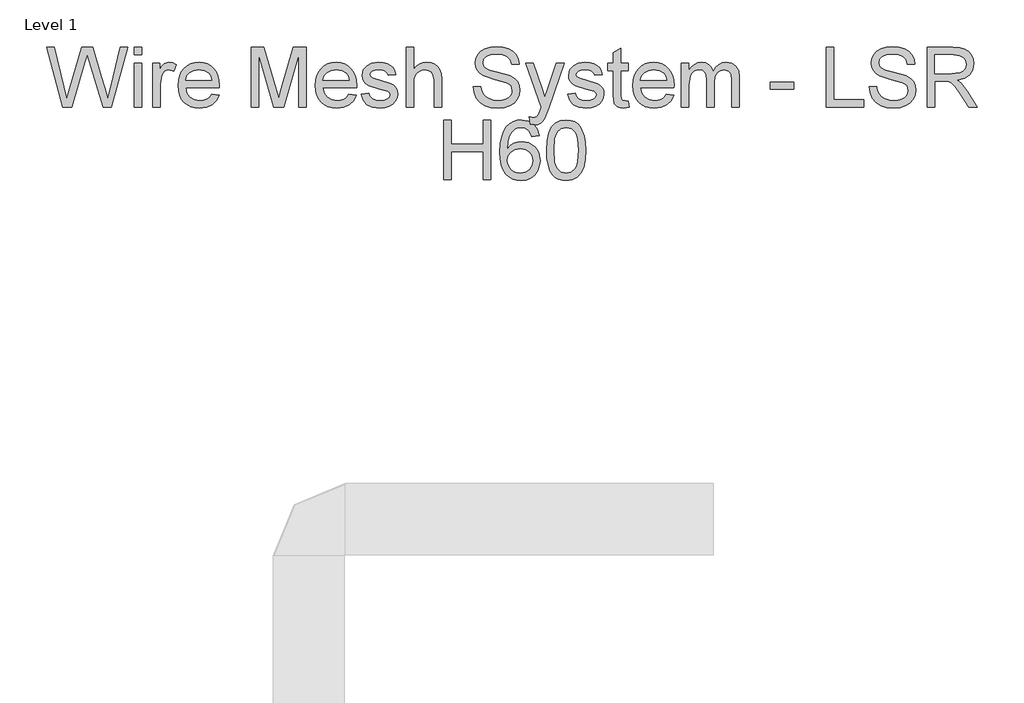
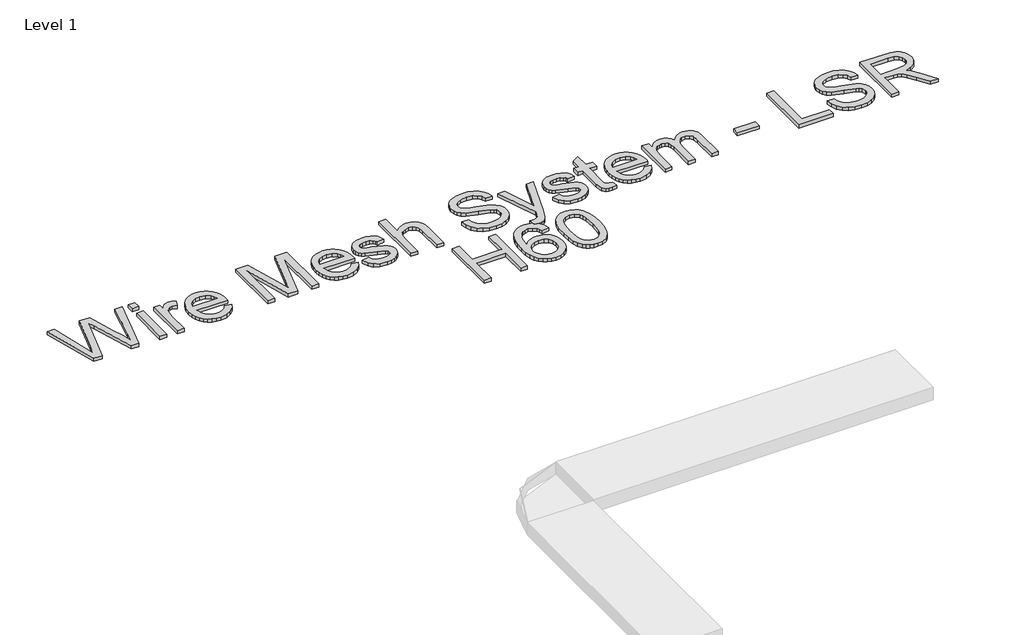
# One storey, part 22 of 32: 1 proxy.
"""IFC4 building model written with IfcOpenShell, lengths in millimetres."""

from ifc_helpers import new_model, si_unit, origin, origin_with_axes, place, context, project, spatial, polyline, outline, extrude, element, save

model = new_model("IFC4")

# Units and contexts
model_context = context("Model", 3, world=origin())
ifc_project = project(units=[si_unit("LENGTHUNIT", "METRE", prefix="MILLI")], contexts=[model_context])

# Site, building, storey
site = spatial("IfcSite", under=ifc_project)
building = spatial("IfcBuilding", under=site)
storey = spatial("IfcBuildingStorey", under=building, Name="Level 1", Elevation=0.0)

# Proxy
placement = place(None, origin())
element("IfcBuildingElementProxy", 1, Name="250mm Arial 3", ObjectType="250mm Arial 3", at=placement, inside=storey, context=model_context, shape_type="SweptSolid", body=[
    extrude(outline(polyline([(11235.8363473, 37103.1379564), (11167.3489825, 37354.2787318), (11199.7225981, 37354.2787318), (11239.4538536, 37189.2223433), (11251.7165867, 37138.2706869), (11264.8377112, 37183.3362313), (11314.6244079, 37354.2787318), (11361.2841076, 37354.2787318), (11397.4591705, 37230.3638131), (11412.9561995, 37184.3785637), (11424.3758698, 37138.2706869), (11436.270721, 37187.7508153), (11476.3698585, 37354.2787318), (11508.743474, 37354.2787318), (11440.1947956, 37103.1379564), (11406.6562204, 37103.1379564), (11346.4462005, 37296.8891405), (11338.0462283, 37323.9284672), (11328.6039237, 37291.3709106), (11273.7281928, 37103.1379564), (11235.8363473, 37103.1379564)])), origin_with_axes(), (0.0, 0.0, 1.0), 15.0),
    extrude(outline(polyline([(11536.2119963, 37322.8861348), (11536.2119963, 37354.2787318), (11567.6045933, 37354.2787318), (11567.6045933, 37322.8861348), (11536.2119963, 37322.8861348)])), origin_with_axes(), (0.0, 0.0, 1.0), 15.0),
    extrude(outline(polyline([(11536.2119963, 37103.1379564), (11536.2119963, 37287.5694633), (11567.6045933, 37287.5694633), (11567.6045933, 37103.1379564), (11536.2119963, 37103.1379564)])), origin_with_axes(), (0.0, 0.0, 1.0), 15.0),
    extrude(outline(polyline([(11614.6934886, 37103.1379564), (11614.6934886, 37287.5694633), (11642.1620109, 37287.5694633), (11642.1620109, 37260.284882), (11652.3094226, 37276.1038078), (11661.6597567, 37285.423485), (11681.2801298, 37291.4935379), (11696.9151146, 37289.0716481), (11712.795354, 37281.8059787), (11702.3107172, 37253.6630061), (11680.2377974, 37260.100941), (11670.8644708, 37258.5527709), (11662.4874912, 37253.9082608), (11651.1751198, 37236.7404343), (11646.0860856, 37200.0748621), (11646.0860856, 37103.1379564), (11614.6934886, 37103.1379564)])), origin_with_axes(), (0.0, 0.0, 1.0), 15.0),
    extrude(outline(polyline([(11861.5423074, 37158.075001), (11892.3217677, 37154.1509264), (11881.2316584, 37130.9590323), (11863.5350015, 37113.6225933), (11839.6303361, 37102.8160597), (11809.9162007, 37099.2138818), (11790.4376155, 37100.7678), (11773.082016, 37105.4295547), (11757.8494021, 37113.1991458), (11744.7397739, 37124.0765733), (11734.1976555, 37137.759101), (11726.6675709, 37153.9439928), (11722.1495202, 37172.6312485), (11720.6435032, 37193.8208682), (11722.1648486, 37215.7290074), (11726.7288846, 37235.0389801), (11734.3356113, 37251.7507861), (11744.9850286, 37265.8644256), (11758.0601678, 37277.0771622), (11772.9440602, 37285.0862598), (11789.6367058, 37289.8917184), (11808.1381044, 37291.4935379), (11826.0436109, 37289.8955505), (11842.2361669, 37285.1015883), (11856.7157723, 37277.1116512), (11869.4824271, 37265.9257393), (11879.9038343, 37251.8427566), (11887.3476965, 37235.1616074), (11891.8140139, 37215.8822916), (11893.3027863, 37194.0048092), (11893.1188453, 37185.5435233), (11752.0361002, 37185.5435233), (11757.4700238, 37162.0450609), (11770.0929748, 37144.7699355), (11788.3107977, 37134.1473429), (11810.5293374, 37130.6064787), (11827.2373114, 37132.2466193), (11841.3087977, 37137.1670409), (11852.7437963, 37145.6743121), (11861.5423074, 37158.075001)]), holes=[polyline([(11752.0361002, 37216.9361202), (11861.9101894, 37216.9361202), (11857.664218, 37233.5214669), (11849.3408879, 37245.3856612), (11831.0387586, 37256.4221211), (11808.0154771, 37260.100941), (11786.8545982, 37257.1655493), (11769.3572108, 37248.359374), (11757.1941123, 37234.632777), (11752.0361002, 37216.9361202)])]), origin_with_axes(), (0.0, 0.0, 1.0), 15.0),
    extrude(outline(polyline([(12026.7213232, 37103.1379564), (12026.7213232, 37354.2787318), (12080.7386629, 37354.2787318), (12132.1195149, 37177.2661784), (12142.4815244, 37140.2940379), (12153.7019252, 37180.3318617), (12204.2243859, 37354.2787318), (12258.2417255, 37354.2787318), (12258.2417255, 37103.1379564), (12226.8491286, 37103.1379564), (12226.8491286, 37322.8861348), (12163.7573664, 37103.1379564), (12121.2056823, 37103.1379564), (12058.1139202, 37322.8861348), (12058.1139202, 37103.1379564), (12026.7213232, 37103.1379564)])), origin_with_axes(), (0.0, 0.0, 1.0), 15.0),
    extrude(outline(polyline([(12438.3812758, 37158.075001), (12469.1607361, 37154.1509264), (12458.0706268, 37130.9590323), (12440.37397, 37113.6225933), (12416.4693045, 37102.8160597), (12386.7551692, 37099.2138818), (12367.276584, 37100.7678), (12349.9209844, 37105.4295547), (12334.6883706, 37113.1991458), (12321.5787424, 37124.0765733), (12311.0366239, 37137.759101), (12303.5065394, 37153.9439928), (12298.9884886, 37172.6312485), (12297.4824717, 37193.8208682), (12299.003817, 37215.7290074), (12303.567853, 37235.0389801), (12311.1745797, 37251.7507861), (12321.823997, 37265.8644256), (12334.8991363, 37277.0771622), (12349.7830287, 37285.0862598), (12366.4756742, 37289.8917184), (12384.9770729, 37291.4935379), (12402.8825794, 37289.8955505), (12419.0751353, 37285.1015883), (12433.5547407, 37277.1116512), (12446.3213956, 37265.9257393), (12456.7428027, 37251.8427566), (12464.186665, 37235.1616074), (12468.6529823, 37215.8822916), (12470.1417548, 37194.0048092), (12469.9578138, 37185.5435233), (12328.8750686, 37185.5435233), (12334.3089922, 37162.0450609), (12346.9319432, 37144.7699355), (12365.1497662, 37134.1473429), (12387.3683058, 37130.6064787), (12404.0762798, 37132.2466193), (12418.1477661, 37137.1670409), (12429.5827648, 37145.6743121), (12438.3812758, 37158.075001)]), holes=[polyline([(12328.8750686, 37216.9361202), (12438.7491578, 37216.9361202), (12434.5031865, 37233.5214669), (12426.1798563, 37245.3856612), (12407.8777271, 37256.4221211), (12384.8544455, 37260.100941), (12363.6935666, 37257.1655493), (12346.1961792, 37248.359374), (12334.0330807, 37234.632777), (12328.8750686, 37216.9361202)])]), origin_with_axes(), (0.0, 0.0, 1.0), 15.0),
    extrude(outline(polyline([(12489.7621278, 37158.075001), (12521.1547248, 37161.9990756), (12526.1058033, 37148.5713828), (12535.6860636, 37138.6998826), (12549.9568193, 37132.6298297), (12568.9793841, 37130.6064787), (12587.7720227, 37132.4612171), (12600.9851177, 37138.0254323), (12608.8026101, 37146.0881793), (12611.4084409, 37155.4385134), (12608.7872817, 37163.4399468), (12600.923804, 37169.5406565), (12568.6115021, 37178.4924517), (12521.3386657, 37193.851525), (12509.3748367, 37201.5693827), (12500.7066172, 37211.7857723), (12495.4413061, 37223.8492361), (12493.6862024, 37237.1083163), (12499.3270597, 37260.4994798), (12514.7167898, 37278.3724134), (12534.6743881, 37287.6614338), (12561.6830579, 37291.4935379), (12582.115837, 37289.9530321), (12599.8814717, 37285.3315145), (12614.1675559, 37278.0811735), (12624.1616834, 37268.6541974), (12630.7835593, 37256.3531432), (12634.9528886, 37240.4805679), (12603.5602917, 37236.5564933), (12599.597896, 37246.4356577), (12591.757411, 37253.8776039), (12579.9621945, 37258.5451067), (12564.1356045, 37260.100941), (12546.1093868, 37258.6140846), (12534.0919082, 37254.1535154), (12527.3320766, 37247.7155805), (12525.0787994, 37240.2966269), (12528.818933, 37231.1608907), (12540.5298432, 37224.2324465), (12567.5691698, 37217.5492569), (12613.6463897, 37202.7726634), (12625.8171524, 37195.7062634), (12635.0448591, 37186.0340326), (12640.8619931, 37173.7253142), (12642.8010378, 37158.7494513), (12640.524768, 37143.2677507), (12633.6959584, 37128.7057551), (12622.5751923, 37116.2054314), (12607.4230526, 37106.9087468), (12589.1209234, 37101.137598), (12568.5501885, 37099.2138818), (12536.8970085, 37102.9233586), (12513.7970848, 37114.0517889), (12498.3766979, 37132.4765455), (12489.7621278, 37158.075001)])), origin_with_axes(), (0.0, 0.0, 1.0), 15.0),
    extrude(outline(polyline([(12678.1177094, 37103.1379564), (12678.1177094, 37354.2787318), (12709.5103063, 37354.2787318), (12709.5103063, 37261.940351), (12721.0411076, 37274.8698703), (12733.9897874, 37284.1052412), (12748.3563457, 37289.6464637), (12764.1407826, 37291.4935379), (12783.1020337, 37289.4778512), (12799.3961404, 37283.4307909), (12812.226025, 37273.8275379), (12820.7946098, 37261.1432733), (12825.623061, 37243.7148638), (12827.2325447, 37219.8791762), (12827.2325447, 37103.1379564), (12795.8399478, 37103.1379564), (12795.8399478, 37216.6295519), (12793.3414159, 37236.2805818), (12785.8458203, 37249.7389315), (12773.7670281, 37257.5104386), (12757.5189067, 37260.100941), (12744.2521622, 37258.3535015), (12731.7978238, 37253.1111831), (12721.4817995, 37244.8798235), (12714.6299974, 37234.1652603), (12710.7902291, 37219.9251614), (12709.5103063, 37201.1171944), (12709.5103063, 37103.1379564), (12678.1177094, 37103.1379564)])), origin_with_axes(), (0.0, 0.0, 1.0), 15.0),
    extrude(outline(polyline([(12960.6510817, 37189.4675979), (12992.0436786, 37189.4675979), (12995.6458564, 37172.0468526), (13002.1604334, 37158.0443442), (13012.3231736, 37146.9312422), (13026.8698408, 37138.1787164), (13044.6508039, 37132.4995381), (13064.5164316, 37130.6064787), (13082.0061548, 37132.0396856), (13097.3192429, 37136.3393065), (13109.727596, 37143.1451234), (13118.5031144, 37152.0969186), (13123.7224402, 37162.3746218), (13125.4622155, 37173.1581628), (13120.2505539, 37192.7478791), (13112.3104342, 37200.4963936), (13098.9133982, 37207.0033064), (13053.2040603, 37218.990128), (13003.9998434, 37234.4718287), (12988.3725228, 37245.0331076), (12977.2977419, 37257.8323354), (12970.6988587, 37272.5936004), (12968.4992309, 37289.0409913), (12971.2200248, 37307.4274268), (12979.3824066, 37324.5722607), (12992.7717784, 37339.1035995), (13011.1735423, 37349.64955), (13033.2617905, 37356.0644923), (13057.7106147, 37358.2028064), (13084.1981184, 37355.9648576), (13107.3746841, 37349.2510112), (13126.4125773, 37338.1992229), (13140.4840636, 37322.9474485), (13149.3898736, 37304.4460498), (13152.9307378, 37283.6453887), (13121.5381409, 37283.6453887), (13115.7746563, 37302.3767136), (13103.7571778, 37315.8963769), (13084.9798676, 37324.0817513), (13058.936888, 37326.8102095), (13032.2807718, 37324.1124082), (13013.993971, 37316.0190043), (13003.4173636, 37304.1088247), (12999.8918278, 37289.9606963), (13002.3903597, 37277.8972325), (13009.8859553, 37268.1943449), (13027.6056048, 37259.5184612), (13061.14418, 37250.6586365), (13116.6943613, 37234.9010243), (13134.5902875, 37223.5120109), (13147.0752827, 37209.455853), (13154.40993, 37192.8858348), (13156.8548124, 37173.9552405), (13154.042048, 37154.6031147), (13145.6037547, 37136.4006201), (13131.884822, 37120.7349785), (13113.2301392, 37108.9934115), (13090.7970017, 37101.6587642), (13065.7427049, 37099.2138818), (13034.9862373, 37101.8503694), (13009.6713575, 37109.7598323), (12989.5068257, 37122.9729273), (12974.2014018, 37141.5203112), (12964.3758869, 37164.1143971), (12960.6510817, 37189.4675979)])), origin_with_axes(), (0.0, 0.0, 1.0), 15.0),
    extrude(outline(polyline([(13200.0196332, 37032.5046133), (13196.0955586, 37062.7322506), (13212.0371117, 37059.9731356), (13226.9363325, 37063.4373577), (13236.0720687, 37073.0942601), (13244.6559819, 37096.2095122), (13247.1085286, 37103.8124067), (13180.3992601, 37287.5694633), (13213.5086397, 37287.5694633), (13248.8866249, 37185.1756413), (13261.2106717, 37144.2181125), (13273.5347186, 37180.3931754), (13309.8937224, 37287.5694633), (13342.7578473, 37287.5694633), (13278.5624392, 37098.7233725), (13261.885122, 37057.7658437), (13253.3471941, 37044.6907044), (13243.6749633, 37035.6316103), (13232.439234, 37030.3433066), (13219.2108106, 37028.5805387), (13200.0196332, 37032.5046133)])), origin_with_axes(), (0.0, 0.0, 1.0), 15.0),
    extrude(outline(polyline([(13356.9826178, 37158.075001), (13388.3752147, 37161.9990756), (13393.3262932, 37148.5713828), (13402.9065535, 37138.6998826), (13417.1773093, 37132.6298297), (13436.1998741, 37130.6064787), (13454.9925127, 37132.4612171), (13468.2056077, 37138.0254323), (13476.0231001, 37146.0881793), (13478.6289309, 37155.4385134), (13476.0077717, 37163.4399468), (13468.144294, 37169.5406565), (13435.8319921, 37178.4924517), (13388.5591557, 37193.851525), (13376.5953267, 37201.5693827), (13367.9271072, 37211.7857723), (13362.6617961, 37223.8492361), (13360.9066924, 37237.1083163), (13366.5475497, 37260.4994798), (13381.9372798, 37278.3724134), (13401.894878, 37287.6614338), (13428.9035479, 37291.4935379), (13449.336327, 37289.9530321), (13467.1019617, 37285.3315145), (13481.3880458, 37278.0811735), (13491.3821734, 37268.6541974), (13498.0040493, 37256.3531432), (13502.1733786, 37240.4805679), (13470.7807816, 37236.5564933), (13466.818386, 37246.4356577), (13458.977901, 37253.8776039), (13447.1826845, 37258.5451067), (13431.3560945, 37260.100941), (13413.3298767, 37258.6140846), (13401.3123982, 37254.1535154), (13394.5525666, 37247.7155805), (13392.2992893, 37240.2966269), (13396.0394229, 37231.1608907), (13407.7503331, 37224.2324465), (13434.7896598, 37217.5492569), (13480.8668797, 37202.7726634), (13493.0376423, 37195.7062634), (13502.2653491, 37186.0340326), (13508.0824831, 37173.7253142), (13510.0215278, 37158.7494513), (13507.7452579, 37143.2677507), (13500.9164484, 37128.7057551), (13489.7956823, 37116.2054314), (13474.6435426, 37106.9087468), (13456.3414133, 37101.137598), (13435.7706784, 37099.2138818), (13404.1174984, 37102.9233586), (13381.0175748, 37114.0517889), (13365.5971878, 37132.4765455), (13356.9826178, 37158.075001)])), origin_with_axes(), (0.0, 0.0, 1.0), 15.0),
    extrude(outline(polyline([(13612.0474678, 37129.3188917), (13615.9715424, 37102.2182514), (13592.4884084, 37099.2138818), (13577.420575, 37100.5167972), (13566.1848457, 37104.4255434), (13553.0637212, 37118.0984909), (13549.2622739, 37153.7217307), (13549.2622739, 37256.1768664), (13525.7178262, 37256.1768664), (13525.7178262, 37287.5694633), (13549.2622739, 37287.5694633), (13549.2622739, 37332.3897531), (13580.6548709, 37350.8451665), (13580.6548709, 37287.5694633), (13612.0474678, 37287.5694633), (13612.0474678, 37256.1768664), (13580.6548709, 37256.1768664), (13580.6548709, 37154.6414357), (13582.3103398, 37138.4546279), (13587.6752856, 37132.7218002), (13598.3745203, 37130.6064787), (13612.0474678, 37129.3188917)])), origin_with_axes(), (0.0, 0.0, 1.0), 15.0),
    extrude(outline(polyline([(13772.566645, 37158.075001), (13803.3461053, 37154.1509264), (13792.255996, 37130.9590323), (13774.5593392, 37113.6225933), (13750.6546737, 37102.8160597), (13720.9405384, 37099.2138818), (13701.4619531, 37100.7678), (13684.1063536, 37105.4295547), (13668.8737397, 37113.1991458), (13655.7641115, 37124.0765733), (13645.2219931, 37137.759101), (13637.6919085, 37153.9439928), (13633.1738578, 37172.6312485), (13631.6678409, 37193.8208682), (13633.1891862, 37215.7290074), (13637.7532222, 37235.0389801), (13645.3599489, 37251.7507861), (13656.0093662, 37265.8644256), (13669.0845055, 37277.0771622), (13683.9683978, 37285.0862598), (13700.6610434, 37289.8917184), (13719.162442, 37291.4935379), (13737.0679485, 37289.8955505), (13753.2605045, 37285.1015883), (13767.7401099, 37277.1116512), (13780.5067647, 37265.9257393), (13790.9281719, 37251.8427566), (13798.3720341, 37235.1616074), (13802.8383515, 37215.8822916), (13804.3271239, 37194.0048092), (13804.1431829, 37185.5435233), (13663.0604378, 37185.5435233), (13668.4943614, 37162.0450609), (13681.1173124, 37144.7699355), (13699.3351353, 37134.1473429), (13721.553675, 37130.6064787), (13738.261649, 37132.2466193), (13752.3331353, 37137.1670409), (13763.768134, 37145.6743121), (13772.566645, 37158.075001)]), holes=[polyline([(13663.0604378, 37216.9361202), (13772.934527, 37216.9361202), (13768.6885556, 37233.5214669), (13760.3652255, 37245.3856612), (13742.0630962, 37256.4221211), (13719.0398147, 37260.100941), (13697.8789358, 37257.1655493), (13680.3815484, 37248.359374), (13668.2184499, 37234.632777), (13663.0604378, 37216.9361202)])]), origin_with_axes(), (0.0, 0.0, 1.0), 15.0),
    extrude(outline(polyline([(13835.7197209, 37103.1379564), (13835.7197209, 37287.5694633), (13867.1123178, 37287.5694633), (13867.1123178, 37257.2191987), (13876.5546223, 37271.1603935), (13888.6947282, 37282.0818902), (13903.1187681, 37289.140626), (13919.4128748, 37291.4935379), (13936.8719411, 37289.0946407), (13950.8667853, 37281.8979492), (13961.3207654, 37270.3786442), (13968.1572391, 37255.0119067), (13979.599902, 37270.9726204), (13992.6520486, 37282.3731301), (14007.313679, 37289.213436), (14023.5847931, 37291.4935379), (14047.1828902, 37287.6997549), (14064.6342923, 37276.3184056), (14075.4178333, 37257.0429219), (14079.012347, 37229.5667354), (14079.012347, 37103.1379564), (14047.6197501, 37103.1379564), (14047.6197501, 37216.0777289), (14044.7073509, 37242.2893211), (14034.1614004, 37255.1958477), (14016.2271532, 37260.100941), (13999.2202751, 37256.9586156), (13985.3557224, 37247.5316395), (13976.1356799, 37231.1762191), (13973.0623324, 37207.248561), (13973.0623324, 37103.1379564), (13941.6697355, 37103.1379564), (13941.6697355, 37219.5726079), (13939.8533181, 37237.3229141), (13934.4040661, 37249.9841861), (13924.8161416, 37257.5717523), (13910.5837069, 37260.100941), (13898.4895863, 37258.4148152), (13887.3458275, 37253.3564378), (13878.1487776, 37245.048436), (13871.8947837, 37233.6134374), (13867.1123178, 37196.1507875), (13867.1123178, 37103.1379564), (13835.7197209, 37103.1379564)])), origin_with_axes(), (0.0, 0.0, 1.0), 15.0),
    extrude(outline(polyline([(14208.5068093, 37177.6953741), (14208.5068093, 37209.087971), (14306.6086747, 37209.087971), (14306.6086747, 37177.6953741), (14208.5068093, 37177.6953741)])), origin_with_axes(), (0.0, 0.0, 1.0), 15.0),
    extrude(outline(polyline([(14443.9512862, 37103.1379564), (14443.9512862, 37354.2787318), (14475.3438831, 37354.2787318), (14475.3438831, 37134.5305533), (14600.9142708, 37134.5305533), (14600.9142708, 37103.1379564), (14443.9512862, 37103.1379564)])), origin_with_axes(), (0.0, 0.0, 1.0), 15.0),
    extrude(outline(polyline([(14624.4587185, 37189.4675979), (14655.8513154, 37189.4675979), (14659.4534933, 37172.0468526), (14665.9680703, 37158.0443442), (14676.1308104, 37146.9312422), (14690.6774776, 37138.1787164), (14708.4584407, 37132.4995381), (14728.3240685, 37130.6064787), (14745.8137917, 37132.0396856), (14761.1268797, 37136.3393065), (14773.5352328, 37143.1451234), (14782.3107513, 37152.0969186), (14787.5300771, 37162.3746218), (14789.2698523, 37173.1581628), (14784.0581908, 37192.7478791), (14776.118071, 37200.4963936), (14762.721035, 37207.0033064), (14717.0116971, 37218.990128), (14667.8074803, 37234.4718287), (14652.1801597, 37245.0331076), (14641.1053788, 37257.8323354), (14634.5064955, 37272.5936004), (14632.3068677, 37289.0409913), (14635.0276617, 37307.4274268), (14643.1900434, 37324.5722607), (14656.5794152, 37339.1035995), (14674.9811792, 37349.64955), (14697.0694273, 37356.0644923), (14721.5182516, 37358.2028064), (14748.0057552, 37355.9648576), (14771.1823209, 37349.2510112), (14790.2202142, 37338.1992229), (14804.2917005, 37322.9474485), (14813.1975105, 37304.4460498), (14816.7383747, 37283.6453887), (14785.3457777, 37283.6453887), (14779.5822931, 37302.3767136), (14767.5648146, 37315.8963769), (14748.7875045, 37324.0817513), (14722.7445249, 37326.8102095), (14696.0884087, 37324.1124082), (14677.8016078, 37316.0190043), (14667.2250004, 37304.1088247), (14663.6994647, 37289.9606963), (14666.1979965, 37277.8972325), (14673.6935922, 37268.1943449), (14691.4132416, 37259.5184612), (14724.9518169, 37250.6586365), (14780.5019981, 37234.9010243), (14798.3979244, 37223.5120109), (14810.8829196, 37209.455853), (14818.2175668, 37192.8858348), (14820.6624493, 37173.9552405), (14817.8496848, 37154.6031147), (14809.4113916, 37136.4006201), (14795.6924588, 37120.7349785), (14777.037776, 37108.9934115), (14754.6046385, 37101.6587642), (14729.5503418, 37099.2138818), (14698.7938742, 37101.8503694), (14673.4789944, 37109.7598323), (14653.3144625, 37122.9729273), (14638.0090387, 37141.5203112), (14628.1835237, 37164.1143971), (14624.4587185, 37189.4675979)])), origin_with_axes(), (0.0, 0.0, 1.0), 15.0),
    extrude(outline(polyline([(14867.7513447, 37103.1379564), (14867.7513447, 37354.2787318), (14975.9699649, 37354.2787318), (15005.0556351, 37352.5849418), (15026.2165141, 37347.5035717), (15041.6828863, 37338.1225808), (15053.6850364, 37323.5299283), (15061.3875657, 37305.4347327), (15063.9550754, 37285.5461123), (15059.7014398, 37260.8060482), (15046.9405331, 37240.2966269), (15025.2891449, 37225.2594504), (14994.3640647, 37216.9361202), (15012.2063414, 37203.5084274), (15037.6515128, 37171.1961255), (15079.5287465, 37103.1379564), (15043.0471154, 37103.1379564), (15010.3669315, 37155.1932587), (14986.7611701, 37189.6515389), (14970.1758235, 37205.9303172), (14955.2459458, 37211.9083996), (14937.0357871, 37213.0120456), (14899.1439416, 37213.0120456), (14899.1439416, 37103.1379564), (14867.7513447, 37103.1379564)]), holes=[polyline([(14899.1439416, 37244.4046425), (14969.4094027, 37244.4046425), (15005.2472404, 37248.8498833), (15017.0347926, 37254.6286963), (15025.6033774, 37263.0746538), (15030.8227032, 37273.2910434), (15032.5624785, 37284.3811527), (15029.2438763, 37299.6942407), (15019.2880698, 37312.033616), (15002.1585644, 37320.1730051), (14977.3188656, 37322.8861348), (14899.1439416, 37322.8861348), (14899.1439416, 37244.4046425)])]), origin_with_axes(), (0.0, 0.0, 1.0), 15.0),
    extrude(outline(polyline([(12837.0427313, 36798.2009118), (12837.0427313, 37049.3416872), (12868.4353282, 37049.3416872), (12868.4353282, 36947.3157472), (13001.8538651, 36947.3157472), (13001.8538651, 37049.3416872), (13033.246462, 37049.3416872), (13033.246462, 36798.2009118), (13001.8538651, 36798.2009118), (13001.8538651, 36915.9231502), (12868.4353282, 36915.9231502), (12868.4353282, 36798.2009118), (12837.0427313, 36798.2009118)])), origin_with_axes(), (0.0, 0.0, 1.0), 15.0),
    extrude(outline(polyline([(13237.298342, 36982.6324187), (13205.9057451, 36978.7083441), (13200.8473677, 36994.2666868), (13194.0108939, 37004.8892794), (13179.770795, 37014.6841375), (13162.5569833, 37017.9490902), (13147.9643309, 37016.0483666), (13134.2300697, 37010.3461957), (13122.4348532, 36998.3363814), (13112.8009435, 36981.8046842), (13106.2940307, 36958.4211849), (13103.8798051, 36925.8559641), (13116.4720992, 36940.5482513), (13131.5629252, 36950.9025966), (13148.3092202, 36957.0416274), (13165.8679213, 36959.087971), (13194.8692853, 36953.493099), (13219.2108106, 36936.708483), (13228.8408882, 36924.7025008), (13235.7195151, 36911.0640422), (13241.2224166, 36878.8896961), (13238.6319143, 36856.4105733), (13230.8604071, 36835.5715911), (13218.5516887, 36817.8979269), (13202.3495525, 36804.9147582), (13182.9897625, 36796.9363174), (13161.2080827, 36794.2768372), (13142.4940022, 36796.0396051), (13125.592507, 36801.3279087), (13110.5035971, 36810.1417482), (13097.2272724, 36822.4811235), (13086.4034943, 36838.8672007), (13078.6722242, 36859.821146), (13074.0334622, 36885.3429594), (13072.4872082, 36915.4326409), (13074.2039908, 36949.1666534), (13079.3543388, 36977.9572517), (13087.938252, 37001.8044356), (13099.9557305, 37020.7082052), (13112.9810524, 37033.2353536), (13128.0833747, 37042.1833167), (13145.2626975, 37047.5520945), (13164.5190207, 37049.3416872), (13192.064185, 37044.9117748), (13214.1217763, 37031.6220377), (13229.5728201, 37010.5148082), (13237.298342, 36982.6324187)]), holes=[polyline([(13103.8798051, 36879.3802054), (13105.6962225, 36865.4696674), (13111.1454745, 36852.1875946), (13119.6067604, 36840.7679243), (13130.4592793, 36832.4445942), (13143.5574111, 36827.3632241), (13158.7555361, 36825.6694341), (13179.4718909, 36829.1796415), (13195.7583334, 36839.7102636), (13206.3119481, 36856.2649534), (13209.8298197, 36877.8473637), (13206.3579334, 36898.5637186), (13195.9422744, 36914.3596518), (13179.3799204, 36924.3614435), (13157.4679491, 36927.6953741), (13136.7822511, 36924.3614435), (13119.4841331, 36914.3596518), (13107.7808871, 36898.946929), (13103.8798051, 36879.3802054)])]), origin_with_axes(), (0.0, 0.0, 1.0), 15.0),
    extrude(outline(polyline([(13268.690939, 36921.7479485), (13270.9978656, 36961.9467207), (13277.9186457, 36994.0061037), (13289.3843012, 37018.4166069), (13305.3258543, 37035.6687397), (13325.8582682, 37045.9234503), (13351.0965059, 37049.3416872), (13370.4409675, 37047.3183362), (13387.7620781, 37041.2482833), (13402.2474316, 37031.3691189), (13413.0846221, 37017.9184334), (13427.7999019, 36980.7623519), (13432.0765301, 36955.0489333), (13433.5020728, 36921.7479485), (13431.2181387, 36881.7791026), (13424.3663366, 36849.7963616), (13412.9696589, 36825.3628658), (13397.0510984, 36808.0417552), (13376.4726993, 36797.7180667), (13351.0965059, 36794.2768372), (13333.8060521, 36795.7713578), (13318.4776356, 36800.2549196), (13305.1112565, 36807.7275226), (13293.7069146, 36818.1891669), (13282.7624253, 36837.1006007), (13274.9449329, 36860.6642089), (13270.2544374, 36888.8799915), (13268.690939, 36921.7479485)]), holes=[polyline([(13300.0835359, 36921.8092622), (13303.7623558, 36872.4287685), (13308.3608808, 36855.5387696), (13314.7988157, 36843.848936), (13331.2308781, 36830.2143096), (13351.0965059, 36825.6694341), (13370.9621336, 36830.229638), (13387.3941961, 36843.9102497), (13393.832131, 36855.6192438), (13398.4306559, 36872.5054106), (13402.1094759, 36921.8092622), (13398.5532832, 36970.0784456), (13394.1080425, 36986.912879), (13387.8847054, 36998.8805402), (13371.4832998, 37013.1819527), (13350.7286239, 37017.9490902), (13331.077594, 37013.7491041), (13315.289325, 37001.1491458), (13308.6367923, 36988.1199918), (13303.8849832, 36970.5536265), (13300.0835359, 36921.8092622)])]), origin_with_axes(), (0.0, 0.0, 1.0), 15.0),
])

save(model, "model.ifc")
